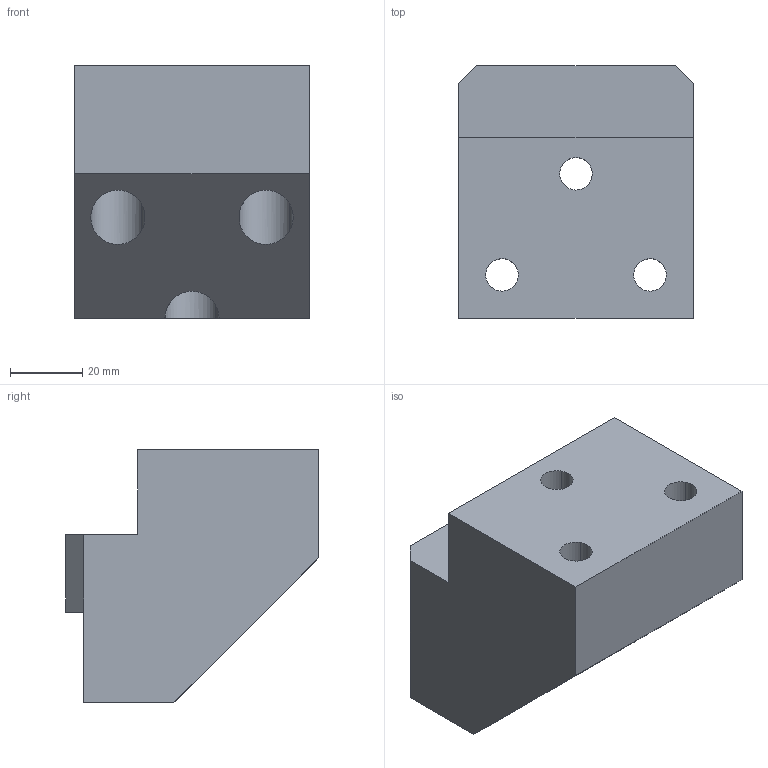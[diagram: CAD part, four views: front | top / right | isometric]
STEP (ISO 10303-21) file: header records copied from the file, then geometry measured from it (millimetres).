
FILE_DESCRIPTION(('CATIA V5 STEP Exchange','CAx-IF Rec.Pracs.--- Model Styling and Organization---1.5--- 2016-08-15','CAx-IF Rec.Pracs.---Supplemental Geometry---1.0---2011-11-01','CAx-IF Rec.Pracs.--- Composite Materials ---1.1---2010-07-15','CAx-IF Rec.Pracs.---External References---2.1---2005-01-19'),'2;1');
FILE_NAME('E:\WAT\Sprezarka\121_00_00_Tlocznik1\Tlocznik1_KPL\Tlocznik1_stp\121_01_04_Podparcie_stempla.stp','2023-08-01T08:49:43+00:00',('none'),('none'),'CATIA Version 5-6 Release 2022 SP3','CATIA V5 STEP AP214 v2','none');
FILE_SCHEMA(('AUTOMOTIVE_DESIGN { 1 0 10303 214 1 1 1 1 }'));
Length unit declared in the file: millimetre
Products named in the file (1): 121_01_04_Podparcie_stempla
Bounding box: 65 x 70 x 70 mm (x, y, z)
Volume: 209831.9 mm3; surface area: 28956.4 mm2
Topology: 1 solids, 1 shells, 36 faces, 90 edges, 56 vertices
Faces by surface type: plane 16, cylinder 16, cone 4
Entity records: 1138 total; most frequent: CARTESIAN_POINT 271, ORIENTED_EDGE 172, DIRECTION 128, EDGE_CURVE 86, VERTEX_POINT 56, AXIS2_PLACEMENT_3D 53, VECTOR 52, LINE 52
